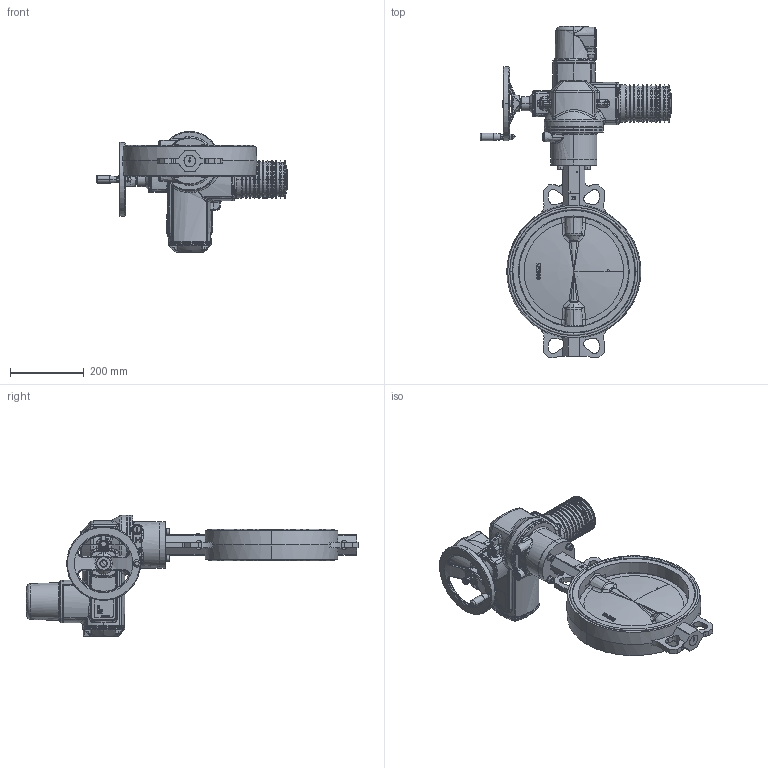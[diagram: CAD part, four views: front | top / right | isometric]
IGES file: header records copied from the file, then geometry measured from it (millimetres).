
Start section: SolidWorks IGES file using NURBS representation for surfaces
Global section: file name: H:\BE BIBLIOTHEQUE 3D\Projet_Biblio3D_2016\FSK\VPI\VPI-U24\VPI-U24 DN300.Igs; native system: SolidWorks 2014; preprocessor: SolidWorks 2014; author: a.cartier; date: 160929.181738; units: millimetre
Bounding box: 519.2 x 898 x 327.8 mm (x, y, z)
Volume: 13727344 mm3; surface area: 1204146.6 mm2
Topology: 37 solids, 37 shells, 3515 faces, 8575 edges, 5047 vertices
Faces by surface type: bspline 3515
